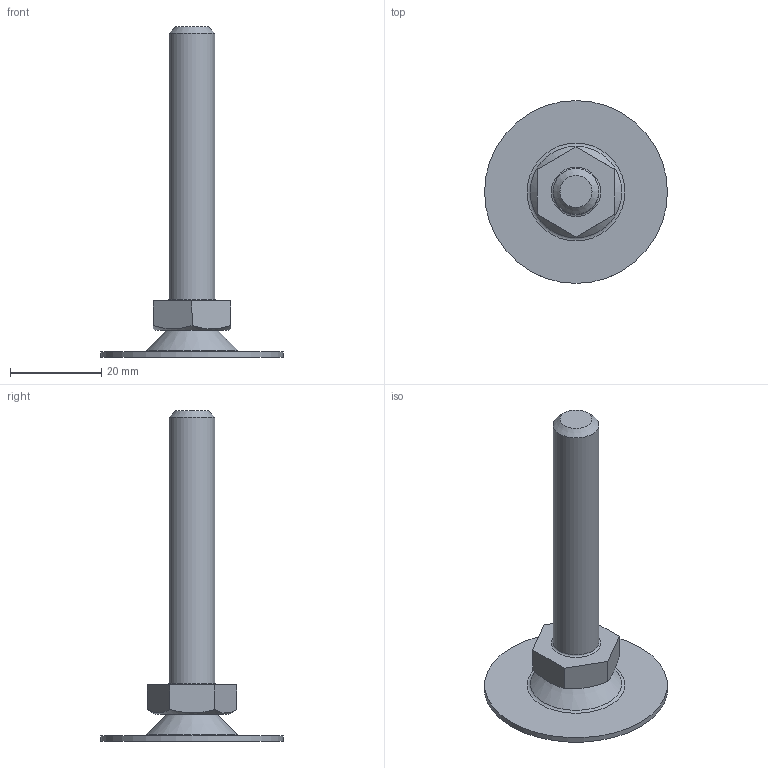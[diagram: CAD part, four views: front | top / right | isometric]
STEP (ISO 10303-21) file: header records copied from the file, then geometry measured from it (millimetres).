
FILE_DESCRIPTION(('STEP AP203'), '1');
FILE_NAME('A00050.1041016', '', ('UNSPECIFIED'), ('UNSPECIFIED'), 'C3D Converter', 'C3D Toolkit', '');
FILE_SCHEMA(('CONFIG_CONTROL_DESIGN'));
Length unit declared in the file: millimetre
Products named in the file (4): A00050.1041060; A00050.1040
Assembly tree (3 placements, depth 2):
  A00050.1041060
    A00050.1040
    (unnamed)
    (unnamed)
Bounding box: 40 x 40 x 72.38 mm (x, y, z)
Volume: 7883.9 mm3; surface area: 5984.9 mm2
Topology: 3 solids, 3 shells, 58 faces, 130 edges, 82 vertices
Faces by surface type: plane 28, torus 8, bspline 8, cone 7, cylinder 6, sphere 1
Full cylindrical faces by diameter (mm): 3.3 x1, 4 x1, 4.5 x1, 8 x1, 10 x1, 40 x1
Entity records: 2171 total; most frequent: CARTESIAN_POINT 784, DIRECTION 242, ORIENTED_EDGE 214, EDGE_CURVE 107, AXIS2_PLACEMENT_3D 95, EDGE_LOOP 86, VERTEX_POINT 81, ADVANCED_FACE 58
